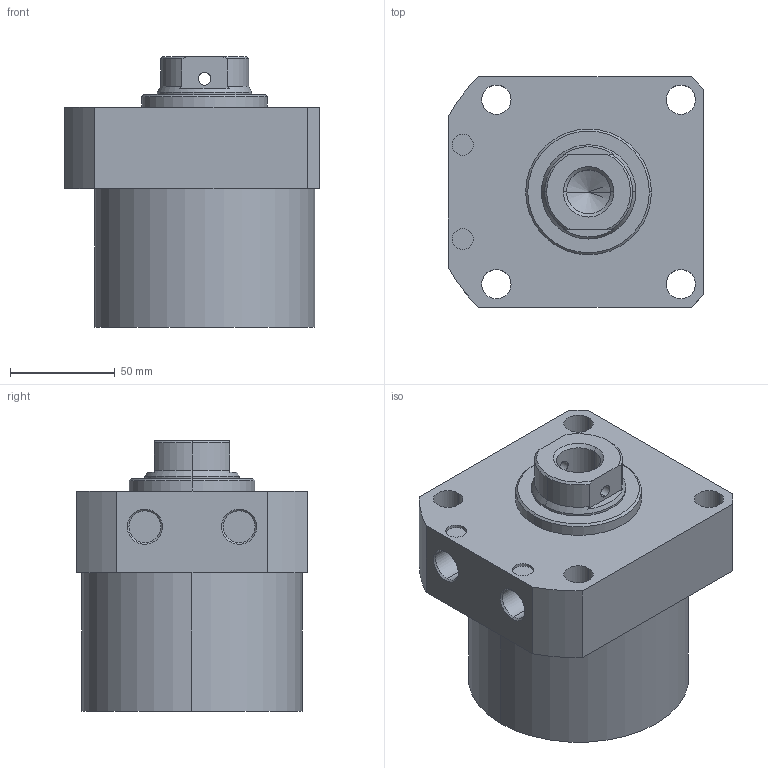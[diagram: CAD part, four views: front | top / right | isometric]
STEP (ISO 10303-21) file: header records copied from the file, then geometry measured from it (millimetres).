
FILE_DESCRIPTION (( 'STEP AP203' ), '1' );
FILE_NAME ('CLLR-105CB-045.STEP', '2019-12-19T01:43:42', ( '' ), ( '' ), 'SwSTEP 2.0', 'SolidWorks 2015', '' );
FILE_SCHEMA (( 'CONFIG_CONTROL_DESIGN' ));
Length unit declared in the file: millimetre
Products named in the file (1): CLLR-105CB-045
Bounding box: 122 x 110 x 129 mm (x, y, z)
Volume: 1073572.4 mm3; surface area: 79726.2 mm2
Topology: 1 solids, 1 shells, 67 faces, 160 edges, 101 vertices
Faces by surface type: cylinder 33, plane 19, cone 15
Entity records: 2165 total; most frequent: CARTESIAN_POINT 471, DIRECTION 358, ORIENTED_EDGE 316, EDGE_CURVE 158, AXIS2_PLACEMENT_3D 144, VERTEX_POINT 101, EDGE_LOOP 87, CIRCLE 76
